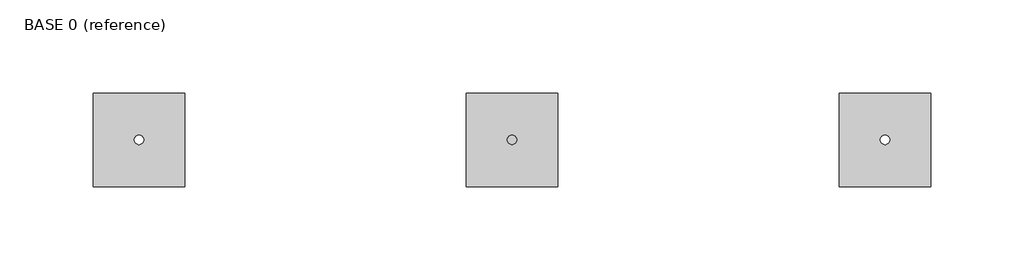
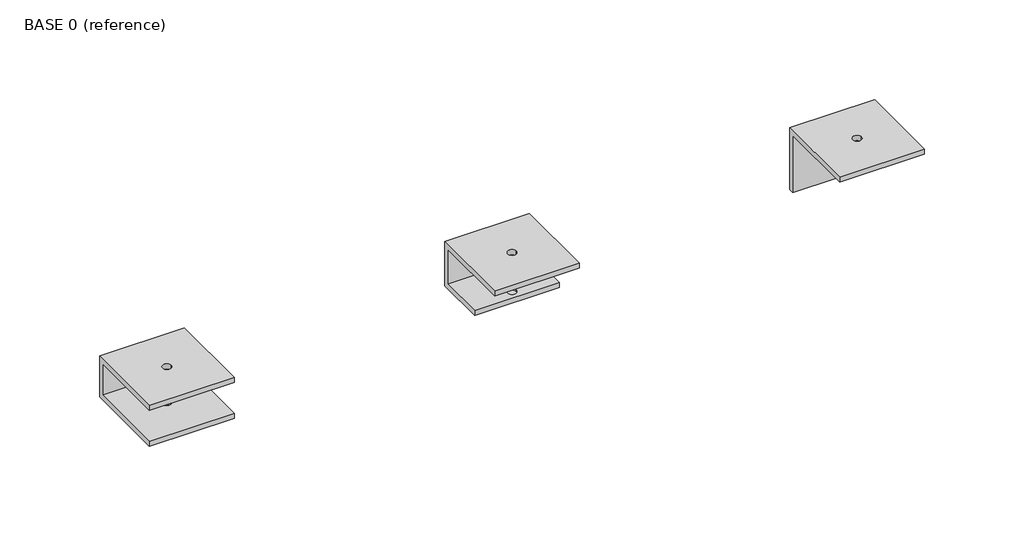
# One storey: 3 proxies.
"""IFC4 building model written with IfcOpenShell, lengths in millimetres."""

from ifc_helpers import new_model, si_unit, origin, place, context, project, spatial, transform, mapped, element, save
from components import generic_models_478a6bcc, generic_models_fdf49503, generic_models_e9cf81b0

model = new_model("IFC4")

# Units and contexts
model_context = context("Model", 3, world=origin())
ifc_project = project(units=[si_unit("LENGTHUNIT", "METRE", prefix="MILLI")], contexts=[model_context])

# Site, building, storey
site = spatial("IfcSite", under=ifc_project)
building = spatial("IfcBuilding", under=site)
storey = spatial("IfcBuildingStorey", under=building, Name="BASE 0 (reference)", Elevation=0.0)

# Proxies
placement = place(None, origin())
generic_models_shape = generic_models_478a6bcc(model_context)
element("IfcBuildingElementProxy", 1, Name="CV-EP8-02 END CAP : CV-EP8-02 END CAP", ObjectType="CV-EP8-02 END CAP : CV-EP8-02 END CAP", at=placement, inside=storey, context=model_context, shape_type="MappedRepresentation", body=[
    mapped(generic_models_shape, transform((-15657.9477292, 16206.4653297, 0.0), x_axis=(1.0, 0.0, 0.0), y_axis=(0.0, 1.0, 0.0), z_axis=(0.0, 0.0, 1.0))),
])
generic_models_2_shape = generic_models_fdf49503(model_context)
element("IfcBuildingElementProxy", 2, Name="CV-EP6-01 END CAP : CV-EP6-01 END CAP", ObjectType="CV-EP6-01 END CAP : CV-EP6-01 END CAP", at=placement, inside=storey, context=model_context, shape_type="MappedRepresentation", body=[
    mapped(generic_models_2_shape, transform((-16057.9477292, 16206.4653297, 0.0), x_axis=(1.0, 0.0, 0.0), y_axis=(0.0, 1.0, 0.0), z_axis=(0.0, 0.0, 1.0))),
])
generic_models_3_shape = generic_models_e9cf81b0(model_context)
element("IfcBuildingElementProxy", 3, Name="CV-EP8-01 END CAP : CV-EP8-01 END CAP", ObjectType="CV-EP8-01 END CAP : CV-EP8-01 END CAP", at=placement, inside=storey, context=model_context, shape_type="MappedRepresentation", body=[
    mapped(generic_models_3_shape, transform((-15857.9477292, 16206.4653297, 0.0), x_axis=(1.0, 0.0, 0.0), y_axis=(0.0, 1.0, 0.0), z_axis=(0.0, 0.0, 1.0))),
])

save(model, "model.ifc")
